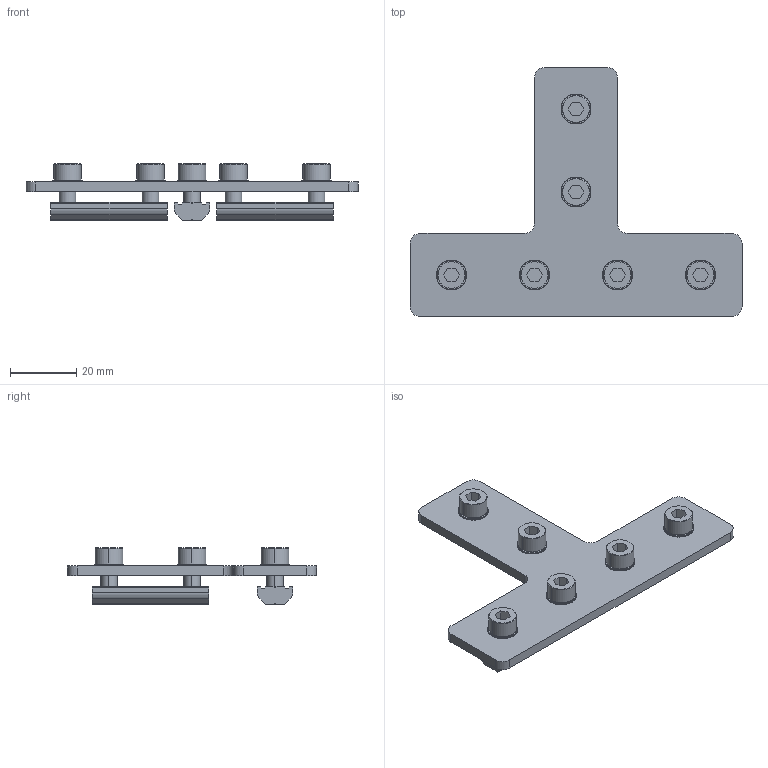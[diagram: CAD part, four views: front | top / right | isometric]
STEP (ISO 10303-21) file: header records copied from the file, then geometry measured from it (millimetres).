
FILE_DESCRIPTION (( 'STEP AP214' ), '1' );
FILE_NAME ('SFP-T25100.STEP', '2019-10-30T08:43:48', ( '微软用户' ), ( '微软中国' ), 'SwSTEP 2.0', 'SolidWorks 2016', '' );
FILE_SCHEMA (( 'AUTOMOTIVE_DESIGN' ));
Length unit declared in the file: millimetre
Products named in the file (5): SFP-T25100; PTS-M5; PTN-M5P25; PTC-M5L12
Assembly tree (16 placements, depth 2):
  SFP-T25100
    SFP-T25100
    PTC-M5L12  x6
    PTN-M5P25  x3
    PTS-M5  x6
Bounding box: 100 x 75 x 17 mm (x, y, z)
Volume: 18152.4 mm3; surface area: 15821.3 mm2
Topology: 16 solids, 16 shells, 1284 faces, 3756 edges, 2492 vertices
Faces by surface type: plane 1114, cylinder 134, cone 36
Entity records: 9270 total; most frequent: CARTESIAN_POINT 1763, DIRECTION 1566, ORIENTED_EDGE 1548, EDGE_CURVE 774, AXIS2_PLACEMENT_3D 541, VERTEX_POINT 514, LINE 484, VECTOR 484
